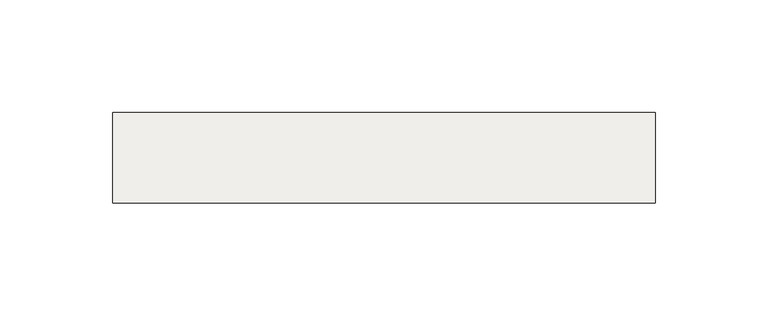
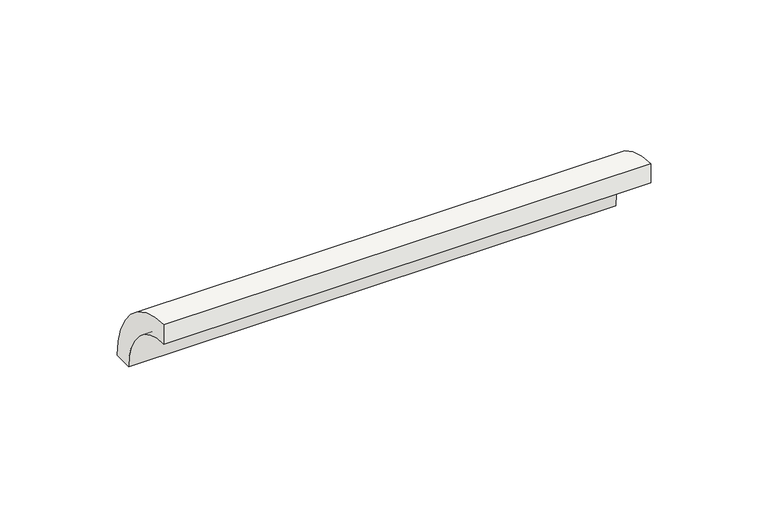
"""IFC4 building model written with IfcOpenShell, lengths in millimetres: slab geometry, ROSA GRES_183 : Pieza 183_Tresor_Java_Anti-Slip."""

import ifcopenshell
import ifcopenshell.guid

model = None  # the IFC model being written
_history = None  # IfcOwnerHistory: only IFC2X3 demands one
_inside = {}  # id of a spatial element -> (the spatial element, [elements in it])
_under = {}  # id of a project, library or spatial element -> (it, [spatial elements below it])
_declared = {}  # id of a project -> (the project, [libraries it declares])
_typed = {}  # id of a type object -> (the type object, [elements of that type])
_made_of = {}  # id of a material, layer set ... -> (it, [elements and type objects made of it])


def new_model(schema):
    """Start an empty IFC model of exactly this schema.

    Asked for "IFC4X3", IfcOpenShell would pick the latest addendum, in which some entities
    have other attributes; the version numbers below select the first issue.
    IFC2X3 requires an IfcOwnerHistory on every rooted entity: one is made here for all.
    """
    global model, _history
    if schema == "IFC4X3":
        model = ifcopenshell.file(schema_version=(4, 3, 0, 0))
    else:
        model = ifcopenshell.file(schema=schema)
    _inside.clear()
    _under.clear()
    _declared.clear()
    _typed.clear()
    _made_of.clear()
    _history = None
    if model.schema == "IFC2X3":
        org = make("IfcOrganization", Name="unknown")
        user = make(
            "IfcPersonAndOrganization",
            ThePerson=make("IfcPerson", FamilyName="unknown"),
            TheOrganization=org,
        )
        app = make(
            "IfcApplication",
            ApplicationDeveloper=org,
            Version="unknown",
            ApplicationFullName="unknown",
            ApplicationIdentifier="unknown",
        )
        _history = make(
            "IfcOwnerHistory",
            OwningUser=user,
            OwningApplication=app,
            ChangeAction="ADDED",
            CreationDate=0,
        )
    return model


def make(cls, **values):
    """One entity of the class cls with the attributes given. An attribute that is None is left unset."""
    return model.create_entity(
        cls, **{name: value for name, value in values.items() if value is not None}
    )


def rooted(cls, **values):
    """An entity with a GlobalId (a new one), such as an element, a storey or a relation."""
    return make(cls, GlobalId=ifcopenshell.guid.new(), OwnerHistory=_history, **values)


def si_unit(unit_type, name, prefix=None):
    """IfcSIUnit, for example si_unit("LENGTHUNIT", "METRE", prefix="MILLI")."""
    return make("IfcSIUnit", UnitType=unit_type, Prefix=prefix, Name=name)


def assignment(units):
    """IfcUnitAssignment: the units of a project."""
    return None if units is None else make("IfcUnitAssignment", Units=units)


def point(xyz):
    """IfcCartesianPoint."""
    return None if xyz is None else make("IfcCartesianPoint", Coordinates=xyz)


def direction(xyz):
    """IfcDirection."""
    return None if xyz is None else make("IfcDirection", DirectionRatios=xyz)


def frame(location, z_axis=None, x_axis=None):
    """IfcAxis2Placement3D, a coordinate frame: its origin and axes. An axis left out is left unset."""
    return make(
        "IfcAxis2Placement3D",
        Location=point(location),
        Axis=direction(z_axis),
        RefDirection=direction(x_axis),
    )


def frame_2d(location, x_axis=None):
    """IfcAxis2Placement2D, a coordinate frame in the plane: its origin and x axis."""
    return make(
        "IfcAxis2Placement2D", Location=point(location), RefDirection=direction(x_axis)
    )


def origin():
    """The frame at (0, 0, 0) with its axes left unset."""
    return frame((0.0, 0.0, 0.0))


def origin_2d():
    """The frame at (0, 0) in the plane with its x axis left unset."""
    return frame_2d((0.0, 0.0))


def place(relative_to, where):
    """IfcLocalPlacement: puts the frame where relative to a parent placement (None: the world)."""
    return make(
        "IfcLocalPlacement", PlacementRelTo=relative_to, RelativePlacement=where
    )


def context(
    kind, dimensions, precision=None, world=None, true_north=None, identifier=None
):
    """IfcGeometricRepresentationContext, for example the 3D "Model" context."""
    return make(
        "IfcGeometricRepresentationContext",
        ContextIdentifier=identifier,
        ContextType=kind,
        CoordinateSpaceDimension=dimensions,
        Precision=precision,
        WorldCoordinateSystem=world,
        TrueNorth=true_north,
    )


def project(units=None, contexts=None):
    """IfcProject with its units and contexts."""
    return rooted(
        "IfcProject",
        Name="project",
        RepresentationContexts=contexts,
        UnitsInContext=assignment(units),
    )


def spatial(cls, under=None, at=None, **own):
    """A site, building, storey or space (cls), placed at a placement, below another one or the project."""
    s = rooted(cls, ObjectPlacement=at, **own)
    if under is not None:
        _under.setdefault(under.id(), (under, []))[1].append(s)
    return s


def polyline(points):
    """IfcPolyline through the points."""
    return make("IfcPolyline", Points=[point(p) for p in points])


def circle_curve(where, radius):
    """IfcCircle in the frame where."""
    return make("IfcCircle", Position=where, Radius=radius)


def trimmed(basis, trim1, trim2, sense, master):
    """IfcTrimmedCurve: the piece of a basis curve between two trims."""
    return make(
        "IfcTrimmedCurve",
        BasisCurve=basis,
        Trim1=trim1,
        Trim2=trim2,
        SenseAgreement=sense,
        MasterRepresentation=master,
    )


def segment(curve, same_sense, transition):
    """IfcCompositeCurveSegment."""
    return make(
        "IfcCompositeCurveSegment",
        Transition=transition,
        SameSense=same_sense,
        ParentCurve=curve,
    )


def composite_curve(segments, self_intersect=None):
    """IfcCompositeCurve: segments joined end to end."""
    return make("IfcCompositeCurve", Segments=segments, SelfIntersect=self_intersect)


def outline(outer, holes=None, kind="AREA"):
    """IfcArbitraryClosedProfileDef: a profile drawn as a closed curve; with holes, ...WithVoids."""
    if holes is None:
        return make("IfcArbitraryClosedProfileDef", ProfileType=kind, OuterCurve=outer)
    return make(
        "IfcArbitraryProfileDefWithVoids",
        ProfileType=kind,
        OuterCurve=outer,
        InnerCurves=holes,
    )


def extrude(swept, where, along, depth):
    """IfcExtrudedAreaSolid: the profile swept, set in the frame where, extruded along a direction by depth."""
    return make(
        "IfcExtrudedAreaSolid",
        SweptArea=swept,
        Position=where,
        ExtrudedDirection=direction(along),
        Depth=depth,
    )


def shape(context_of_items, identifier, shape_type, items):
    """IfcShapeRepresentation: the items that make up one representation, for example the "Body"."""
    return make(
        "IfcShapeRepresentation",
        ContextOfItems=context_of_items,
        RepresentationIdentifier=identifier,
        RepresentationType=shape_type,
        Items=items,
    )


def source(mapping_origin, context_of_items, identifier, shape_type, items):
    """IfcRepresentationMap: a shape defined once, which mapped items show again and again."""
    return make(
        "IfcRepresentationMap",
        MappingOrigin=mapping_origin,
        MappedRepresentation=shape(context_of_items, identifier, shape_type, items),
    )


def transform(
    local_origin,
    x_axis=None,
    y_axis=None,
    z_axis=None,
    scale=None,
    scale2=None,
    scale3=None,
    uniform=True,
):
    """IfcCartesianTransformationOperator3D, or its non-uniform kind. x_axis, y_axis, z_axis: its Axis1, 2, 3."""
    if uniform:
        return make(
            "IfcCartesianTransformationOperator3D",
            Axis1=direction(x_axis),
            Axis2=direction(y_axis),
            LocalOrigin=point(local_origin),
            Scale=scale,
            Axis3=direction(z_axis),
        )
    return make(
        "IfcCartesianTransformationOperator3DnonUniform",
        Axis1=direction(x_axis),
        Axis2=direction(y_axis),
        LocalOrigin=point(local_origin),
        Scale=scale,
        Axis3=direction(z_axis),
        Scale2=scale2,
        Scale3=scale3,
    )


def mapped(mapping_source, mapping_target):
    """IfcMappedItem: shows the shape of a source again, moved by a transform."""
    return make(
        "IfcMappedItem", MappingSource=mapping_source, MappingTarget=mapping_target
    )


def made_of(thing, what):
    """Note that an element or type object is made of a material, layer set ...; save() writes the relation."""
    if what is not None:
        _made_of.setdefault(what.id(), (what, []))[1].append(thing)
    return thing


def element(
    cls,
    number,
    at=None,
    inside=None,
    cuts=None,
    type_object=None,
    material=None,
    context=None,
    identifier="Body",
    shape_type=None,
    held_by="IfcProductDefinitionShape",
    body=None,
    shapes=None,
    **own,
):
    """One element of the class cls, such as IfcWall. Its Tag is "e" and its number.

    at: its placement. inside: the storey or other place that contains it. cuts: it is an
    opening in that element (IfcRelVoidsElement). A single representation is given by context,
    identifier, shape_type and body (its items); several are given by shapes. held_by: the class
    of the entity that holds the representations. save() writes the other relations.
    """
    e = rooted(cls, Tag="e%d" % number, ObjectPlacement=at, **own)
    if body is not None:
        shapes = [shape(context, identifier, shape_type, body)]
    if shapes is not None:
        e.Representation = make(held_by, Representations=shapes)
    if inside is not None:
        _inside.setdefault(inside.id(), (inside, []))[1].append(e)
    if cuts is not None:
        rooted(
            "IfcRelVoidsElement", RelatingBuildingElement=cuts, RelatedOpeningElement=e
        )
    if type_object is not None:
        _typed.setdefault(type_object.id(), (type_object, []))[1].append(e)
    return made_of(e, material)


def aggregate(whole, parts):
    """IfcRelAggregates: a whole, such as a stair, and the parts it consists of."""
    return rooted("IfcRelAggregates", RelatingObject=whole, RelatedObjects=parts)


def save(model, path):
    """Write the relations noted so far, then the file.

    IfcRelAggregates (storeys below a building ...), IfcRelContainedInSpatialStructure (elements
    in a storey), IfcRelDefinesByType, IfcRelAssociatesMaterial and IfcRelDeclares: one each for
    every whole, place, type object, material and project.
    """
    for whole, parts in _under.values():
        aggregate(whole, parts)
    for where, things in _inside.values():
        rooted(
            "IfcRelContainedInSpatialStructure",
            RelatedElements=things,
            RelatingStructure=where,
        )
    for kind, things in _typed.values():
        rooted("IfcRelDefinesByType", RelatedObjects=things, RelatingType=kind)
    for what, things in _made_of.values():
        rooted("IfcRelAssociatesMaterial", RelatedObjects=things, RelatingMaterial=what)
    for by, libraries in _declared.values():
        rooted("IfcRelDeclares", RelatingContext=by, RelatedDefinitions=libraries)
    model.write(path)


def slab_797531ea(model_context):
    return source(origin(), model_context, "Body", "SweptSolid", [
        extrude(outline(composite_curve([segment(trimmed(circle_curve(origin_2d(), 40.0), [point((0.0, 40.0))], [point((40.0, 0.0))], False, "CARTESIAN"), True, "CONTINUOUS"), segment(polyline([(40.0, 0.0), (30.0265886, 0.0)]), True, "CONTINUOUS"), segment(trimmed(circle_curve(frame_2d((0.0044453, 0.0044453)), 30.0221435), [point((30.0265886, 0.0))], [point((0.0, 30.0265886))], True, "CARTESIAN"), True, "CONTINUOUS"), segment(polyline([(0.0, 30.0265886), (0.0, 40.0)]), True, "CONTINUOUS")], self_intersect=False)), frame((0.0, 0.0, 0.0), z_axis=(1.0, 0.0, 0.0), x_axis=(0.0, 1.0, 0.0)), (0.0, 0.0, 1.0), 239.9808371),
    ])


if __name__ == "__main__":
    model = new_model("IFC4")
    model_context = context("Model", 3, world=origin())
    ifc_project = project(units=[si_unit("LENGTHUNIT", "METRE", prefix="MILLI")], contexts=[model_context])
    site = spatial("IfcSite", under=ifc_project)
    building = spatial("IfcBuilding", under=site)
    placement = place(None, origin())
    slab_shape = slab_797531ea(model_context)
    element("IfcSlab", 1, ObjectType="ROSA GRES_183 : Pieza 183_Tresor_Java_Anti-Slip", at=placement, inside=building, context=model_context, shape_type="MappedRepresentation", body=[
        mapped(slab_shape, transform((0.0, 0.0, 0.0), x_axis=(1.0, 0.0, 0.0), y_axis=(0.0, 1.0, 0.0), z_axis=(0.0, 0.0, 1.0))),
    ])
    save(model, "model.ifc")
